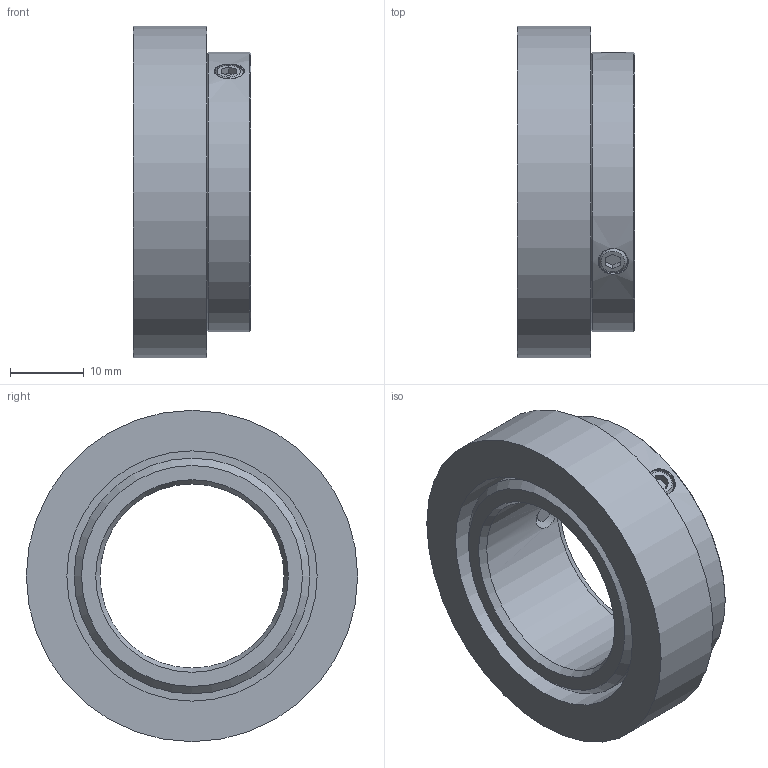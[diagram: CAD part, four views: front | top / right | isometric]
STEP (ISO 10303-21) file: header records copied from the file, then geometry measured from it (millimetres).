
FILE_DESCRIPTION (( 'STEP AP203' ), '1' );
FILE_NAME ('8.RI20.045.2500.111.STEP', '2013-07-30T11:56:52', ( 'Hodot' ), ( '' ), 'SwSTEP 2.0', 'SolidWorks 2012', '' );
FILE_SCHEMA (( 'CONFIG_CONTROL_DESIGN' ));
Length unit declared in the file: millimetre
Products named in the file (1): 8.RI20.045.2500.111
Bounding box: 16 x 45 x 45 mm (x, y, z)
Volume: 13471.9 mm3; surface area: 8208.7 mm2
Topology: 4 solids, 4 shells, 53 faces, 117 edges, 76 vertices
Faces by surface type: plane 30, cylinder 15, cone 8
Full cylindrical faces by diameter (mm): 2.5 x2, 4 x4, 25 x1, 32 x1, 34 x1, 38 x1, 45 x1
Entity records: 1557 total; most frequent: CARTESIAN_POINT 410, DIRECTION 224, ORIENTED_EDGE 180, AXIS2_PLACEMENT_3D 90, EDGE_CURVE 90, EDGE_LOOP 84, VERTEX_POINT 68, FACE_OUTER_BOUND 64
